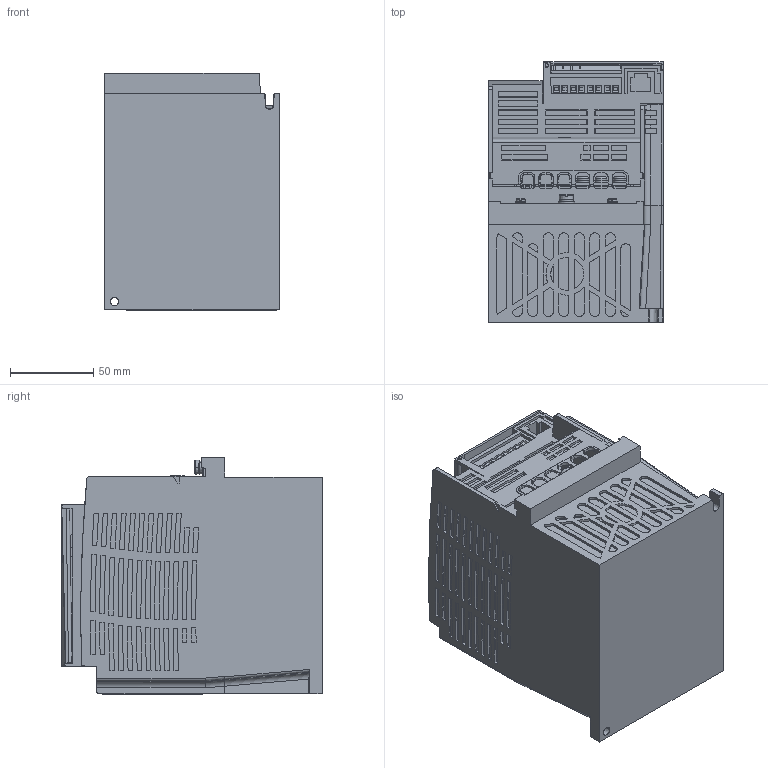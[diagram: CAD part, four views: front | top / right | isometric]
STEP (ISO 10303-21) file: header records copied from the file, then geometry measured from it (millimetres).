
FILE_DESCRIPTION((''),'2;1');
FILE_NAME('N3_S2C_L_1_ASM','2026-03-23T11:29:17',('sesa57331'),('Schneider-Electric'),'CREO PARAMETRIC BY PTC INC, 2025093','CREO PARAMETRIC BY PTC INC, 2025093','');
FILE_SCHEMA(('AP242_MANAGED_MODEL_BASED_3D_ENGINEERING_MIM_LF { 1 0 10303 442 1 1 4 }'));
Products named in the file (18): DRIVE_S2C_2; CONTROL_TERM_COVER; TERM_COVER_S2C_1; TERM_COVER_S2C_2; SCREW_M5_S2C; SCREW_M4_S2C-56350; SCREW_M4_S2C-57186; SHUNT-BAR_S2C; TERM_SCREW_S2C-59908; TERM_SCREW_S2C-60743; TERM_SCREW_S2C-61578; TERM_SCREW_S2C-62413; TERM_SCREW_S2C-63248; TERM_SCREW_S2C-64083; TERM_SCREW_S2C-64918; TERM_SCREW_S2C-65753; TERM_SCREW_S2C-66588; N3_S2C_L_1_ASM
Assembly tree (17 placements, depth 2):
  N3_S2C_L_1_ASM
    DRIVE_S2C_2
    CONTROL_TERM_COVER
    TERM_COVER_S2C_1
    TERM_COVER_S2C_2
    SCREW_M5_S2C
    SCREW_M4_S2C-56350
    SCREW_M4_S2C-57186
    SHUNT-BAR_S2C
    TERM_SCREW_S2C-59908
    TERM_SCREW_S2C-60743
    TERM_SCREW_S2C-61578
    TERM_SCREW_S2C-62413
    TERM_SCREW_S2C-63248
    TERM_SCREW_S2C-64083
    TERM_SCREW_S2C-64918
    TERM_SCREW_S2C-65753
    TERM_SCREW_S2C-66588
Bounding box: 105 x 156.4 x 142.5 mm (x, y, z)
Volume: 1878655.2 mm3; surface area: 165824.3 mm2
Topology: 17 solids, 17 shells, 2105 faces, 5788 edges, 3921 vertices
Faces by surface type: plane 1550, cone 246, cylinder 244, torus 27, bspline 19, sphere 18, extrusion 1
Entity records: 84879 total; most frequent: CARTESIAN_POINT 15721, ORIENTED_EDGE 11540, DIRECTION 10394, EDGE_CURVE 5770, VERTEX_POINT 3921, VECTOR 3878, LINE 3877, AXIS2_PLACEMENT_3D 3258
